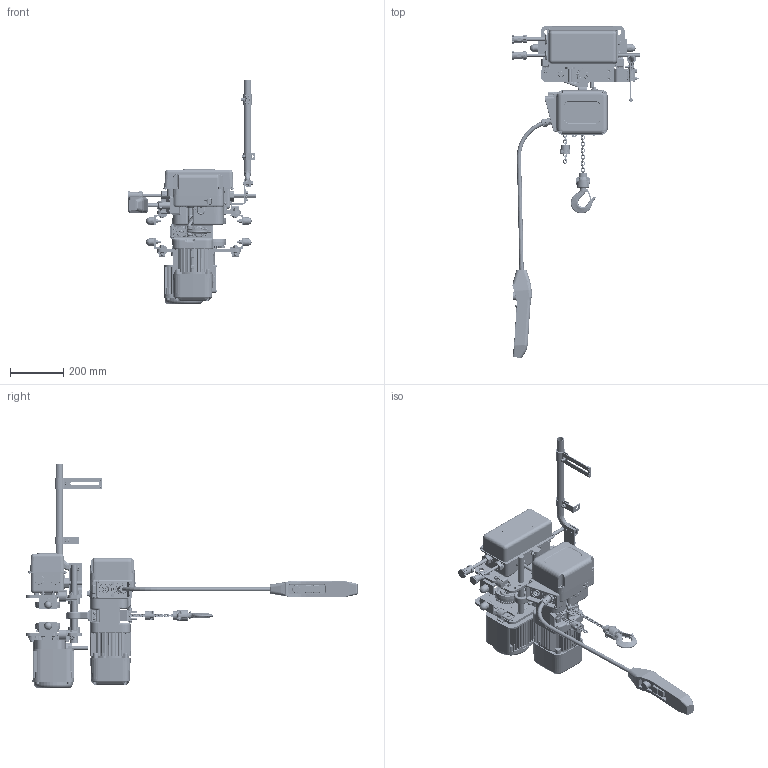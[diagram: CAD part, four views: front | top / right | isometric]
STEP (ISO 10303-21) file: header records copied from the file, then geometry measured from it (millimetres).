
FILE_DESCRIPTION (( 'STEP AP214' ), '1' );
FILE_NAME ('NER2M003S-L.STEP', '2026-08-05T19:34:34', ( '' ), ( '' ), 'SwSTEP 2.0', 'SolidWorks 2026', '' );
FILE_SCHEMA (( 'AUTOMOTIVE_DESIGN' ));
Length unit declared in the file: inch
Products named in the file (136): Socket Head Cap Screw_AM_B18.3.1M - 10 x 1.5 x 20 Hex SHCS -- 20NHX; ER1BS9135; MS551010; MR1DS93112; ER2BS9337; E6L614010S; MR1DS1493; MS527010; 9009432_9009432; MR2DS2811; 9091251_9091251; ECP2304AD; ER2DS9031; ECP5924AA1; MR1DS9325; ER2BS9053; ER2BS9101; ER2BS9331; ER2CS2564; MR1DS9401_1 - 8 TON & 10 L TON; M6FE010S9113; MR1DS9496; MR1DS9491; 16-4 (MR2); 6302Z BEARING; 16-6 (MR2); ER2BHM03S9A31; MR2005L_4" FLANGE; ER2CS9186; MR2DI1811; J1NA001-20060_B18.2.4.1M - Hex nut, Style 1,  M6 x 1 --D-C; MR1DS1301; ECP6914AA; 16-6P (MR2); 9047115_9047115; MR2DS1759; MSF115010_MSF115010; ECP6912AA; hex nut style 1_am_9093424; ER2BS1011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
Assembly tree (333 placements, depth 6):
  NER2M003S-L
    MR2005L_4" FLANGE
      MR1DS5201
        MR1DS9201
        MR1DS9203  x2
        M6FE010S9113
      MR1DS5202
        MR1DS9202
        MR1DS9203  x2
        M6FE010S9114
      MSF115010_MSF115010
      MR1DS9634  x4
      hex cap screw_am_9093330  x8
      single coil rectangular section spring washer_bsi_9012711  x20
      hex nut style 1_am_9093424  x16
      MR1DS9631  x4
      MS006010  x4
      MR1DS1211_Reversed  x2
        MR1DS1211
        MR1DS9218
      MR1DS1211  x2
        MR1DS1211
        MR1DS9218
      MS1101010  x2
        M6SE010S9101
        6302Z BEARING
        basic internal retaining ring_am_9047242
      hex cap screw_am_9093329  x4
      MS1102010  x2
        M6SE010S9102
        radial ball bearing_68_am_AFBMA 20.1 - 03-15 - Full,SI,NC,Full_68
        basic internal retaining ring_am_B27.7M - 3BM1-42
      MR1DS9131_MR1DS9131
      9009446_9009446  x2
      MS161010
      T6G156020
      9009432_9009432
      split pin (metric) as_9009414-5
      9047115_9047115  x4
      MS104010  x4
      6077801
        MR1DS93112
        MR1DS9324
        MR1DS9325
        MR1DS1301
        90912134  x4
        MS554010  x4
      9012513  x4
      hex cap screw_am_9093328  x4
      MR1DS9248
      70130XX_7013001
        MR1DS9411
        MR1DS9401_1 - 8 TON & 10 L TON
        MR1DS9421
        MS554010  x12
        MR2DS2811
          ECP5924AH
          MS527010
          MR2DI1811
          ES558003  x4
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Bounding box: 483.05 x 1247.57 x 841.28 mm (x, y, z)
Volume: 13990145.8 mm3; surface area: 2959487 mm2
Topology: 373 solids, 381 shells, 14166 faces, 37382 edges, 24225 vertices
Faces by surface type: plane 6307, cylinder 4491, cone 1279, torus 1219, bspline 777, sphere 93
Entity records: 348079 total; most frequent: CARTESIAN_POINT 121879, ORIENTED_EDGE 46344, DIRECTION 43890, EDGE_CURVE 23174, AXIS2_PLACEMENT_3D 16158, VERTEX_POINT 15381, LINE 11574, VECTOR 11574
